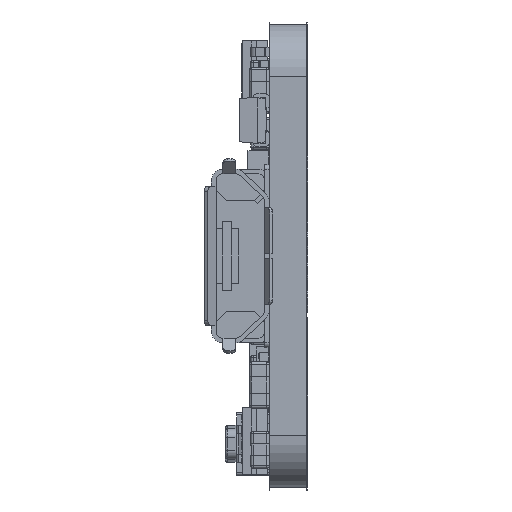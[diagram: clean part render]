
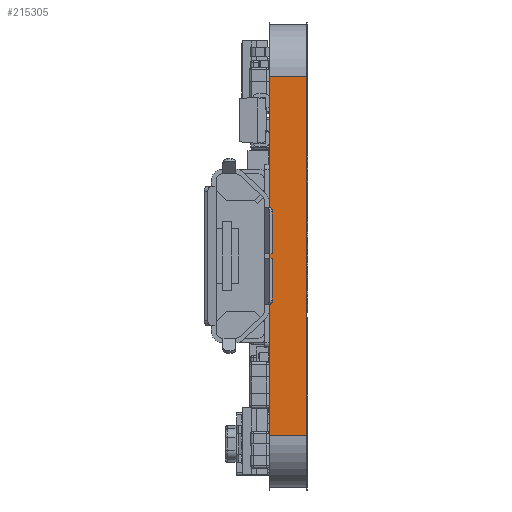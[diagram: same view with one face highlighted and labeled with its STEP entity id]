
A CAD part, left-side view. The second image highlights one B-rep face of the part: STEP entity #215305.
In plain terms, the highlighted planar face has unit normal (-1, 0, 0).
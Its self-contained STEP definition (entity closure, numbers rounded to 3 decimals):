
#4322 = AXIS2_PLACEMENT_3D ( 'NONE', #227220, #227222, #227224 ) ;
#5570 = FACE_OUTER_BOUND ( 'NONE', #192981, .T. ) ;
#64813 = LINE ( 'NONE', #66012, #64815 ) ;
#64815 = VECTOR ( 'NONE', #66014, 1000. ) ;
#64819 = LINE ( 'NONE', #66038, #64821 ) ;
#64821 = VECTOR ( 'NONE', #66040, 1000. ) ;
#66012 = CARTESIAN_POINT ( 'NONE',  ( 100., 0., -102.25 ) ) ;
#66014 = DIRECTION ( 'NONE',  ( 0., 0., 1. ) ) ;
#66038 = CARTESIAN_POINT ( 'NONE',  ( 100., 0., -102.25 ) ) ;
#66040 = DIRECTION ( 'NONE',  ( 0., 0., 1. ) ) ;
#75300 = LINE ( 'NONE', #84911, #75302 ) ;
#75302 = VECTOR ( 'NONE', #84914, 1000. ) ;
#75307 = LINE ( 'NONE', #84932, #75309 ) ;
#75309 = VECTOR ( 'NONE', #84935, 1000. ) ;
#75311 = LINE ( 'NONE', #84939, #75313 ) ;
#75313 = VECTOR ( 'NONE', #84942, 1000. ) ;
#75315 = LINE ( 'NONE', #84946, #75316 ) ;
#75316 = VECTOR ( 'NONE', #84949, 1000. ) ;
#75317 = LINE ( 'NONE', #84953, #75318 ) ;
#75318 = VECTOR ( 'NONE', #84956, 1000. ) ;
#75319 = LINE ( 'NONE', #84958, #75320 ) ;
#75320 = VECTOR ( 'NONE', #84960, 1000. ) ;
#75321 = LINE ( 'NONE', #84965, #75322 ) ;
#75322 = VECTOR ( 'NONE', #84968, 1000. ) ;
#75323 = LINE ( 'NONE', #84971, #75324 ) ;
#75324 = VECTOR ( 'NONE', #84974, 1000. ) ;
#76194 = CARTESIAN_POINT ( 'NONE',  ( 100., 0., -117.071 ) ) ;
#76196 = CARTESIAN_POINT ( 'NONE',  ( 100., 0., -113.862 ) ) ;
#76202 = CARTESIAN_POINT ( 'NONE',  ( 100., 0., -106.163 ) ) ;
#76203 = CARTESIAN_POINT ( 'NONE',  ( 100., 0., -102.929 ) ) ;
#78433 = CARTESIAN_POINT ( 'NONE',  ( 100., 0., -102.25 ) ) ;
#78439 = CARTESIAN_POINT ( 'NONE',  ( 100., -1.6, -102.25 ) ) ;
#78444 = CARTESIAN_POINT ( 'NONE',  ( 100., 0., -117.75 ) ) ;
#78447 = CARTESIAN_POINT ( 'NONE',  ( 100., -1.6, -117.75 ) ) ;
#78450 = CARTESIAN_POINT ( 'NONE',  ( 100., -1.6, -117.071 ) ) ;
#78453 = CARTESIAN_POINT ( 'NONE',  ( 100., -1.6, -102.929 ) ) ;
#84911 = CARTESIAN_POINT ( 'NONE',  ( 100., -1.6, -102.25 ) ) ;
#84914 = DIRECTION ( 'NONE',  ( 0., 1., 0. ) ) ;
#84932 = CARTESIAN_POINT ( 'NONE',  ( 100., 0., -102.25 ) ) ;
#84935 = DIRECTION ( 'NONE',  ( 0., 0., 1. ) ) ;
#84939 = CARTESIAN_POINT ( 'NONE',  ( 100., -1.6, -117.75 ) ) ;
#84942 = DIRECTION ( 'NONE',  ( 0., 1., 0. ) ) ;
#84946 = CARTESIAN_POINT ( 'NONE',  ( 100., -1.6, -102.25 ) ) ;
#84949 = DIRECTION ( 'NONE',  ( 0., 0., 1. ) ) ;
#84953 = CARTESIAN_POINT ( 'NONE',  ( 100., -1.6, -102.25 ) ) ;
#84956 = DIRECTION ( 'NONE',  ( 0., 0., 1. ) ) ;
#84958 = CARTESIAN_POINT ( 'NONE',  ( 100., -1.6, -102.25 ) ) ;
#84960 = DIRECTION ( 'NONE',  ( 0., 0., 1. ) ) ;
#84965 = CARTESIAN_POINT ( 'NONE',  ( 100., 0., -102.25 ) ) ;
#84968 = DIRECTION ( 'NONE',  ( 0., 0., -1. ) ) ;
#84971 = CARTESIAN_POINT ( 'NONE',  ( 100., 0., -102.25 ) ) ;
#84974 = DIRECTION ( 'NONE',  ( 0., 0., 1. ) ) ;
#192981 = EDGE_LOOP ( 'NONE', ( #205543, #205545, #205548, #205549, #205550, #205552, #205554, #205557, #205559, #205561 ) ) ;
#197024 = EDGE_CURVE ( 'NONE', #206235, #206237, #64813, .T. ) ;
#197028 = EDGE_CURVE ( 'NONE', #206242, #206243, #64819, .T. ) ;
#205543 = ORIENTED_EDGE ( 'NONE', *, *, #211461, .F. ) ;
#205545 = ORIENTED_EDGE ( 'NONE', *, *, #211464, .F. ) ;
#205548 = ORIENTED_EDGE ( 'NONE', *, *, #211468, .T. ) ;
#205549 = ORIENTED_EDGE ( 'NONE', *, *, #211470, .T. ) ;
#205550 = ORIENTED_EDGE ( 'NONE', *, *, #211473, .T. ) ;
#205552 = ORIENTED_EDGE ( 'NONE', *, *, #211454, .T. ) ;
#205554 = ORIENTED_EDGE ( 'NONE', *, *, #211475, .T. ) ;
#205557 = ORIENTED_EDGE ( 'NONE', *, *, #197028, .F. ) ;
#205559 = ORIENTED_EDGE ( 'NONE', *, *, #211477, .F. ) ;
#205561 = ORIENTED_EDGE ( 'NONE', *, *, #197024, .F. ) ;
#206235 = VERTEX_POINT ( 'NONE', #76194 ) ;
#206237 = VERTEX_POINT ( 'NONE', #76196 ) ;
#206242 = VERTEX_POINT ( 'NONE', #76202 ) ;
#206243 = VERTEX_POINT ( 'NONE', #76203 ) ;
#208052 = VERTEX_POINT ( 'NONE', #78433 ) ;
#208056 = VERTEX_POINT ( 'NONE', #78439 ) ;
#208059 = VERTEX_POINT ( 'NONE', #78444 ) ;
#208061 = VERTEX_POINT ( 'NONE', #78447 ) ;
#208063 = VERTEX_POINT ( 'NONE', #78450 ) ;
#208065 = VERTEX_POINT ( 'NONE', #78453 ) ;
#211454 = EDGE_CURVE ( 'NONE', #208056, #208052, #75300, .T. ) ;
#211461 = EDGE_CURVE ( 'NONE', #208059, #206235, #75307, .T. ) ;
#211464 = EDGE_CURVE ( 'NONE', #208061, #208059, #75311, .T. ) ;
#211468 = EDGE_CURVE ( 'NONE', #208061, #208063, #75315, .T. ) ;
#211470 = EDGE_CURVE ( 'NONE', #208063, #208065, #75317, .T. ) ;
#211473 = EDGE_CURVE ( 'NONE', #208065, #208056, #75319, .T. ) ;
#211475 = EDGE_CURVE ( 'NONE', #208052, #206243, #75321, .T. ) ;
#211477 = EDGE_CURVE ( 'NONE', #206237, #206242, #75323, .T. ) ;
#215305 = ADVANCED_FACE ( 'NONE', ( #5570 ), #227218, .T. ) ;
#227218 = PLANE ( 'NONE',  #4322 ) ;
#227220 = CARTESIAN_POINT ( 'NONE',  ( 100., -1.6, -102.25 ) ) ;
#227222 = DIRECTION ( 'NONE',  ( -1., 0., 0. ) ) ;
#227224 = DIRECTION ( 'NONE',  ( 0., 0., 1. ) ) ;
